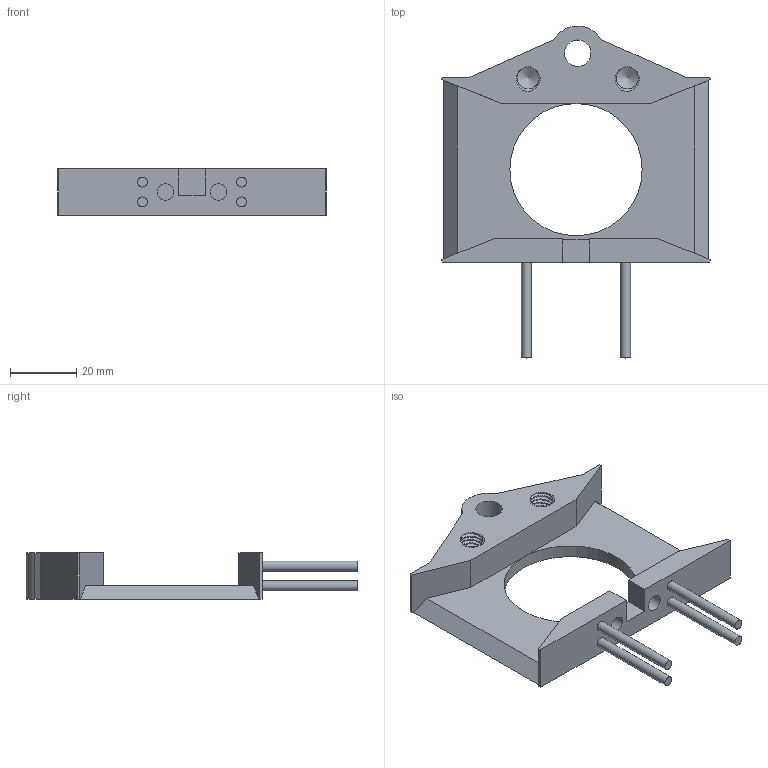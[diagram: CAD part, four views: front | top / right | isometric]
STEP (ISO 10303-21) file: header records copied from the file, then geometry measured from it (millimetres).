
FILE_DESCRIPTION(/* description */ (''),/* implementation_level */ '2;1');
FILE_NAME(/* name */ 'D:/pobrane/pwr/sem 6/konkurs kompozytywni/step/korpus.step',/* time_stamp */ '2021-05-10T22:36:45+02:00',/* author */ (''),/* organization */ (''),/* preprocessor_version */ 'ST-DEVELOPER v18.1',/* originating_system */ 'Autodesk Translation Framework v10.6.0.1341',/* authorisation */ '');
FILE_SCHEMA (('AUTOMOTIVE_DESIGN { 1 0 10303 214 3 1 1 }'));
Length unit declared in the file: millimetre
Products named in the file (1): korpus
Bounding box: 81.29 x 100.44 x 14 mm (x, y, z)
Volume: 27444.7 mm3; surface area: 14481.4 mm2
Topology: 1 solids, 1 shells, 86 faces, 232 edges, 153 vertices
Faces by surface type: cylinder 45, plane 35, bspline 4, cone 2
Full cylindrical faces by diameter (mm): 3 x4, 5 x2, 6.779 x8, 8 x1, 8.17 x2, 40 x1
Entity records: 5209 total; most frequent: CARTESIAN_POINT 3146, ORIENTED_EDGE 460, DIRECTION 347, EDGE_CURVE 230, VERTEX_POINT 153, LINE 119, VECTOR 119, AXIS2_PLACEMENT_3D 114
